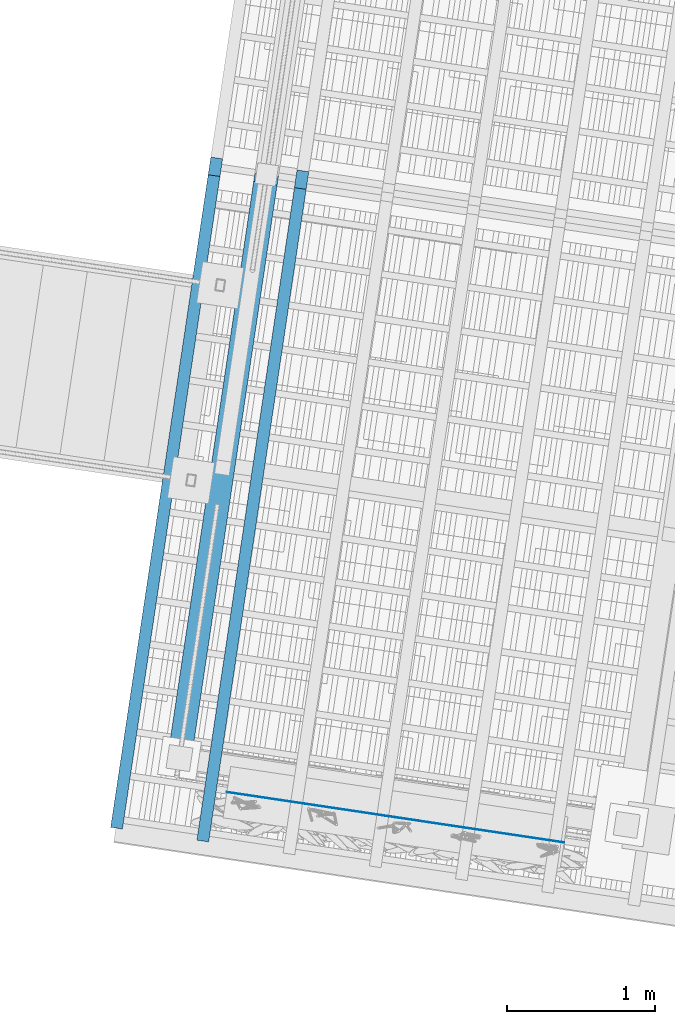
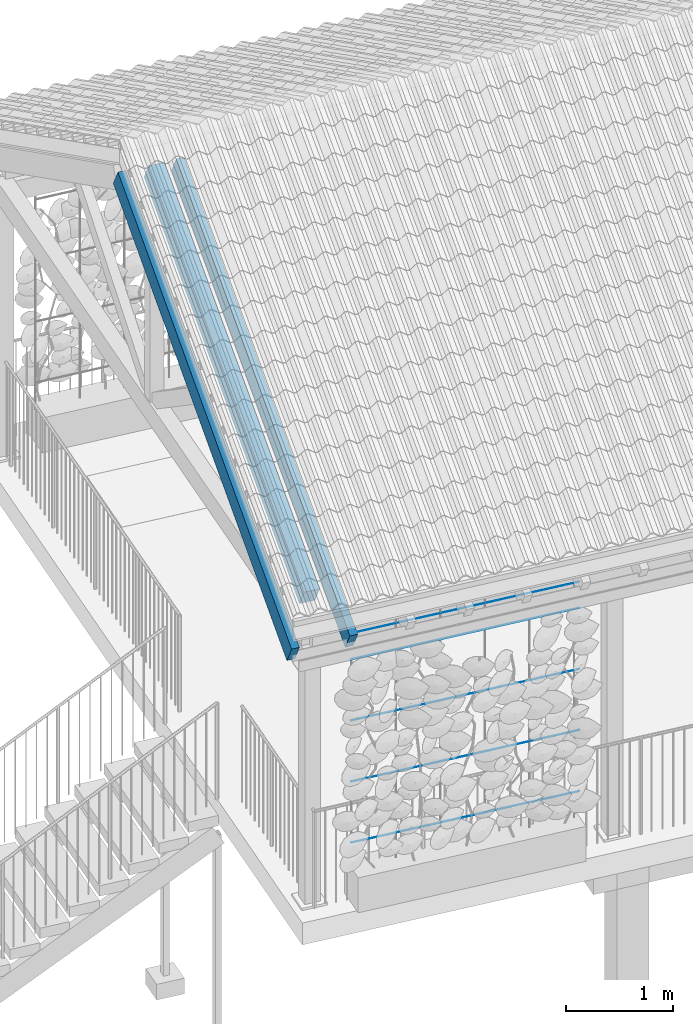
# One storey, part 9 of 131: 8 members, 2 elements without a shape of their own.
"""IFC4 building model written with IfcOpenShell, lengths in metres."""

from ifc_helpers import new_model, si_unit, direction, frame, origin_with_axes, place, context, subcontext, project, spatial, rectangle, circle, extrude, material, material_profile, profile_set, profile_usage, type_object, element, aggregate, save


model = new_model("IFC4")

# Units and contexts
model_context = context("Model", 3, precision=1e-05, world=origin_with_axes(), true_north=direction((0.0, 1.0)))
body_context = subcontext(model_context, "Body", "Model", "MODEL_VIEW")
ifc_project = project(units=[si_unit("VOLUMEUNIT", "CUBIC_METRE"), si_unit("LENGTHUNIT", "METRE"), si_unit("AREAUNIT", "SQUARE_METRE")], contexts=[model_context])

# Site, building, storey
site_placement = place(None, origin_with_axes())
site = spatial("IfcSite", under=ifc_project, at=site_placement, Name="Lares · Rua das Mercês · artigo 4771")
building_placement = place(site_placement, frame((15.0, 9.7, 15.8), z_axis=(0.0, 0.0, 1.0), x_axis=(0.989015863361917, -0.147809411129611, 0.0)))
building = spatial("IfcBuilding", under=site, at=building_placement, Name="Casa Sobreposta")
storey_placement = place(building_placement, origin_with_axes())
storey = spatial("IfcBuildingStorey", under=building, at=storey_placement, Name="00 · Habitação e estacionamento", Elevation=15.8)

# Roof, members
ifc_material_1 = material(Name="Madeira / Bauholz", Category="wood")
roof_placement = place(storey_placement, origin_with_axes())
roof = element("IfcRoof", 1, at=roof_placement, inside=storey, material=ifc_material_1, Name="Cobertura de telha · duas águas 30 graus", PredefinedType="GABLE_ROOF")
ifc_material_profile_1 = material_profile(ifc_material_1, rectangle(XDim=0.16, YDim=0.24))
ifc_profile_set_1 = profile_set([ifc_material_profile_1], Name="TIMBER0.160x0.240")
ifc_profile_usage_1 = profile_usage(ifc_profile_set_1)
member_type_1 = type_object("IfcMemberType", Name="TIMBER0.160x0.240 / timber", PredefinedType="NOTDEFINED", material=ifc_profile_set_1)
member_1_placement = place(roof_placement, frame((-6.05, -1.43, 3.44635462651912), z_axis=(0.0, 0.866025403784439, 0.5), x_axis=(1.0, 0.0, 0.0)))
member_1 = element("IfcMember", 2, at=member_1_placement, type_object=member_type_1, material=ifc_profile_usage_1, Name="Tesoura · perna", context=body_context, shape_type="SweptSolid", body=[
    extrude(rectangle(XDim=0.16, YDim=0.24), origin_with_axes(), (0.0, 0.0, 1.0), 4.59570814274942),
])
ifc_material_profile_2 = material_profile(ifc_material_1, rectangle(XDim=0.08, YDim=0.24))
ifc_profile_set_2 = profile_set([ifc_material_profile_2], Name="TIMBER0.080x0.240")
ifc_profile_usage_2 = profile_usage(ifc_profile_set_2)
member_type_2 = type_object("IfcMemberType", Name="TIMBER0.080x0.240 / timber", PredefinedType="NOTDEFINED", material=ifc_profile_set_2)
member_2_placement = place(roof_placement, frame((-6.4, -1.9, 3.181), z_axis=(0.0, 0.866025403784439, 0.5), x_axis=(1.0, 0.0, 0.0)))
member_2 = element("IfcMember", 3, at=member_2_placement, type_object=member_type_2, material=ifc_profile_usage_2, Name="Cobertura · caibro", context=body_context, shape_type="SweptSolid", body=[
    extrude(rectangle(XDim=0.08, YDim=0.24), origin_with_axes(), (0.0, 0.0, 1.0), 5.13841739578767),
])
ifc_profile_usage_3 = profile_usage(ifc_profile_set_2)
member_3_placement = place(roof_placement, frame((-5.81212121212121, -1.9, 3.181), z_axis=(0.0, 0.866025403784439, 0.5), x_axis=(1.0, 0.0, 0.0)))
member_3 = element("IfcMember", 4, at=member_3_placement, type_object=member_type_2, material=ifc_profile_usage_3, Name="Cobertura · caibro", context=body_context, shape_type="SweptSolid", body=[
    extrude(rectangle(XDim=0.08, YDim=0.24), origin_with_axes(), (0.0, 0.0, 1.0), 5.13841739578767),
])
aggregate(roof, [member_1, member_2, member_3])

# Assembly, members
assembly_placement = place(storey_placement, origin_with_axes())
assembly = element("IfcElementAssembly", 5, at=assembly_placement, inside=storey, Name="Fachada sul e pátio · estrutura e trepadeiras", ObjectType="LIVING_SHADE_TRELLIS", PredefinedType="USERDEFINED")
ifc_material_2 = material(Name="Aço galvanizado / Stahl verzinkt", Category="steel")
ifc_material_profile_3 = material_profile(ifc_material_2, circle(Radius=0.002))
ifc_profile_set_3 = profile_set([ifc_material_profile_3], Name="D0.004")
ifc_profile_usage_4 = profile_usage(ifc_profile_set_3)
member_type_3 = type_object("IfcMemberType", Name="D0.004 / galvanized", PredefinedType="NOTDEFINED", material=ifc_profile_set_3)
member_4_placement = place(assembly_placement, frame((-5.7, -1.61, 0.65), z_axis=(1.0, 0.0, 0.0), x_axis=(0.0, -1.0, 0.0)))
member_4 = element("IfcMember", 6, at=member_4_placement, type_object=member_type_3, material=ifc_profile_usage_4, Name="Trepadeiras · fio horizontal", context=body_context, shape_type="SweptSolid", body=[
    extrude(circle(Radius=0.002), origin_with_axes(), (0.0, 0.0, 1.0), 2.3),
])
ifc_profile_usage_5 = profile_usage(ifc_profile_set_3)
member_5_placement = place(assembly_placement, frame((-5.7, -1.61, 1.35), z_axis=(1.0, 0.0, 0.0), x_axis=(0.0, -1.0, 0.0)))
member_5 = element("IfcMember", 7, at=member_5_placement, type_object=member_type_3, material=ifc_profile_usage_5, Name="Trepadeiras · fio horizontal", context=body_context, shape_type="SweptSolid", body=[
    extrude(circle(Radius=0.002), origin_with_axes(), (0.0, 0.0, 1.0), 2.3),
])
ifc_profile_usage_6 = profile_usage(ifc_profile_set_3)
member_6_placement = place(assembly_placement, frame((-5.7, -1.61, 2.05), z_axis=(1.0, 0.0, 0.0), x_axis=(0.0, -1.0, 0.0)))
member_6 = element("IfcMember", 8, at=member_6_placement, type_object=member_type_3, material=ifc_profile_usage_6, Name="Trepadeiras · fio horizontal", context=body_context, shape_type="SweptSolid", body=[
    extrude(circle(Radius=0.002), origin_with_axes(), (0.0, 0.0, 1.0), 2.3),
])
ifc_profile_usage_7 = profile_usage(ifc_profile_set_3)
member_7_placement = place(assembly_placement, frame((-5.7, -1.61, 2.75), z_axis=(1.0, 0.0, 0.0), x_axis=(0.0, -1.0, 0.0)))
member_7 = element("IfcMember", 9, at=member_7_placement, type_object=member_type_3, material=ifc_profile_usage_7, Name="Trepadeiras · fio horizontal", context=body_context, shape_type="SweptSolid", body=[
    extrude(circle(Radius=0.002), origin_with_axes(), (0.0, 0.0, 1.0), 2.3),
])
ifc_profile_usage_8 = profile_usage(ifc_profile_set_3)
member_8_placement = place(assembly_placement, frame((-5.7, -1.61, 3.05), z_axis=(1.0, 0.0, 0.0), x_axis=(0.0, -1.0, 0.0)))
member_8 = element("IfcMember", 10, at=member_8_placement, type_object=member_type_3, material=ifc_profile_usage_8, Name="Trepadeiras · fio horizontal", context=body_context, shape_type="SweptSolid", body=[
    extrude(circle(Radius=0.002), origin_with_axes(), (0.0, 0.0, 1.0), 2.3),
])
aggregate(assembly, [member_4, member_5, member_6, member_7, member_8])

save(model, "model.ifc")
